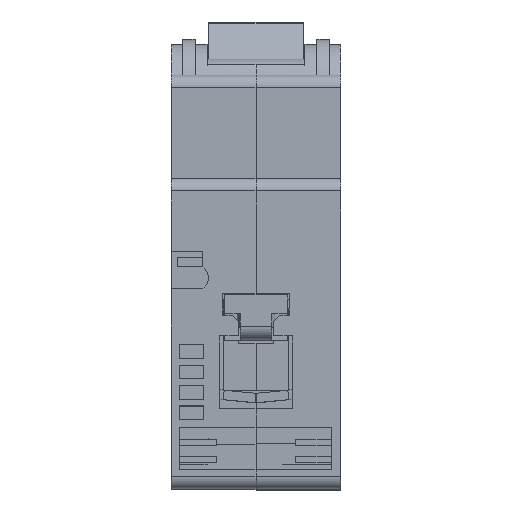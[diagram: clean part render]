
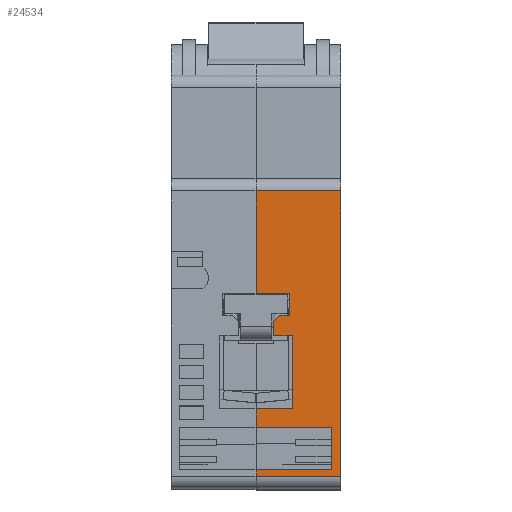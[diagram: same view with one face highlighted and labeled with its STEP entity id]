
A CAD part, top view. The second image highlights one B-rep face of the part: STEP entity #24534.
In plain terms, the highlighted planar face has unit normal (0, 0, 1).
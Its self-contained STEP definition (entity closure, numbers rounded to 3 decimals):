
#54 = FACE_OUTER_BOUND ( 'NONE', #24549, .T. ) ;
#77 = CARTESIAN_POINT ( 'NONE',  ( -10.7, -36.8, 41.2 ) ) ;
#110 = LINE ( 'NONE', #17643, #23780 ) ;
#350 = VECTOR ( 'NONE', #503, 1000. ) ;
#503 = DIRECTION ( 'NONE',  ( 0.707, 0.707, 0. ) ) ;
#535 = CARTESIAN_POINT ( 'NONE',  ( -1.5, -60.4, 41.2 ) ) ;
#616 = DIRECTION ( 'NONE',  ( -1., 0., 0. ) ) ;
#768 = VERTEX_POINT ( 'NONE', #8551 ) ;
#1143 = ORIENTED_EDGE ( 'NONE', *, *, #19884, .F. ) ;
#1582 = DIRECTION ( 'NONE',  ( 0., 1., 0. ) ) ;
#1878 = LINE ( 'NONE', #19238, #3663 ) ;
#1896 = EDGE_CURVE ( 'NONE', #16956, #9926, #29297, .T. ) ;
#1991 = VECTOR ( 'NONE', #29263, 1000. ) ;
#2109 = EDGE_CURVE ( 'NONE', #9926, #23685, #20394, .T. ) ;
#2506 = CARTESIAN_POINT ( 'NONE',  ( -10.7, -36.8, 41.2 ) ) ;
#3663 = VECTOR ( 'NONE', #19548, 1000. ) ;
#3841 = VERTEX_POINT ( 'NONE', #77 ) ;
#4203 = DIRECTION ( 'NONE',  ( -1., 0., 0. ) ) ;
#4446 = CARTESIAN_POINT ( 'NONE',  ( -7.7, -50.7, 41.2 ) ) ;
#4617 = DIRECTION ( 'NONE',  ( 0., 1., 0. ) ) ;
#4830 = VECTOR ( 'NONE', #14381, 1000. ) ;
#5055 = ORIENTED_EDGE ( 'NONE', *, *, #7445, .F. ) ;
#5196 = VECTOR ( 'NONE', #1582, 1000. ) ;
#5289 = VECTOR ( 'NONE', #24247, 1000. ) ;
#5343 = ORIENTED_EDGE ( 'NONE', *, *, #1896, .T. ) ;
#5382 = LINE ( 'NONE', #535, #11844 ) ;
#5641 = VERTEX_POINT ( 'NONE', #21983 ) ;
#5922 = DIRECTION ( 'NONE',  ( -1., 0., 0. ) ) ;
#5967 = EDGE_CURVE ( 'NONE', #18248, #10649, #19441, .T. ) ;
#6152 = CARTESIAN_POINT ( 'NONE',  ( 0., -61.5, 41.2 ) ) ;
#6590 = VECTOR ( 'NONE', #28179, 1000. ) ;
#6630 = EDGE_CURVE ( 'NONE', #16815, #20314, #24893, .T. ) ;
#6741 = CARTESIAN_POINT ( 'NONE',  ( 0., -63.5, 41.2 ) ) ;
#6852 = AXIS2_PLACEMENT_3D ( 'NONE', #16422, #10173, #15816 ) ;
#7194 = LINE ( 'NONE', #18812, #21901 ) ;
#7392 = PLANE ( 'NONE',  #6852 ) ;
#7445 = EDGE_CURVE ( 'NONE', #10649, #22647, #12620, .T. ) ;
#7463 = CARTESIAN_POINT ( 'NONE',  ( -13.5, -63.5, 41.2 ) ) ;
#7576 = EDGE_CURVE ( 'NONE', #11519, #5641, #1878, .T. ) ;
#7755 = ORIENTED_EDGE ( 'NONE', *, *, #26622, .F. ) ;
#7947 = VECTOR ( 'NONE', #4617, 1000. ) ;
#8116 = EDGE_CURVE ( 'NONE', #18248, #25598, #5382, .T. ) ;
#8175 = CARTESIAN_POINT ( 'NONE',  ( -13.5, -16., 41.2 ) ) ;
#8370 = CARTESIAN_POINT ( 'NONE',  ( -13.5, -61.5, 41.2 ) ) ;
#8551 = CARTESIAN_POINT ( 'NONE',  ( -10.7, -39.1, 41.2 ) ) ;
#9044 = DIRECTION ( 'NONE',  ( 1., 0., 0. ) ) ;
#9407 = ORIENTED_EDGE ( 'NONE', *, *, #26239, .T. ) ;
#9913 = EDGE_CURVE ( 'NONE', #25598, #16815, #21098, .T. ) ;
#9926 = VERTEX_POINT ( 'NONE', #12074 ) ;
#9981 = CARTESIAN_POINT ( 'NONE',  ( -13.5, -60.4, 41.2 ) ) ;
#10067 = CARTESIAN_POINT ( 'NONE',  ( -13.5, -61.5, 41.2 ) ) ;
#10173 = DIRECTION ( 'NONE',  ( 0., 0., 1. ) ) ;
#10480 = DIRECTION ( 'NONE',  ( -1., 0., 0. ) ) ;
#10649 = VERTEX_POINT ( 'NONE', #12249 ) ;
#10926 = CARTESIAN_POINT ( 'NONE',  ( -7.7, -39.1, 41.2 ) ) ;
#11519 = VERTEX_POINT ( 'NONE', #27900 ) ;
#11844 = VECTOR ( 'NONE', #5922, 1000. ) ;
#12074 = CARTESIAN_POINT ( 'NONE',  ( -13.5, -16., 41.2 ) ) ;
#12249 = CARTESIAN_POINT ( 'NONE',  ( -1.5, -53.7, 41.2 ) ) ;
#12270 = ORIENTED_EDGE ( 'NONE', *, *, #29686, .F. ) ;
#12620 = LINE ( 'NONE', #14151, #21206 ) ;
#12923 = CARTESIAN_POINT ( 'NONE',  ( -13.5, -32.3, 41.2 ) ) ;
#13306 = DIRECTION ( 'NONE',  ( 0., 1., 0. ) ) ;
#13333 = VERTEX_POINT ( 'NONE', #10926 ) ;
#13523 = CARTESIAN_POINT ( 'NONE',  ( -1.5, -60.4, 41.2 ) ) ;
#13553 = VERTEX_POINT ( 'NONE', #29637 ) ;
#13602 = LINE ( 'NONE', #13906, #16098 ) ;
#13700 = CARTESIAN_POINT ( 'NONE',  ( -13.5, -50.7, 41.2 ) ) ;
#13906 = CARTESIAN_POINT ( 'NONE',  ( -10.7, -39.1, 41.2 ) ) ;
#14142 = EDGE_CURVE ( 'NONE', #3841, #11519, #15014, .T. ) ;
#14151 = CARTESIAN_POINT ( 'NONE',  ( -1.5, -53.7, 41.2 ) ) ;
#14304 = VECTOR ( 'NONE', #27097, 1000. ) ;
#14381 = DIRECTION ( 'NONE',  ( 0., -1., 0. ) ) ;
#14867 = LINE ( 'NONE', #27991, #4830 ) ;
#14875 = ORIENTED_EDGE ( 'NONE', *, *, #8116, .T. ) ;
#15014 = LINE ( 'NONE', #2506, #350 ) ;
#15673 = ORIENTED_EDGE ( 'NONE', *, *, #28279, .F. ) ;
#15816 = DIRECTION ( 'NONE',  ( 1., 0., 0. ) ) ;
#16042 = CARTESIAN_POINT ( 'NONE',  ( -1.5, -60.4, 41.2 ) ) ;
#16062 = CARTESIAN_POINT ( 'NONE',  ( -7.7, -50.7, 41.2 ) ) ;
#16082 = VECTOR ( 'NONE', #10480, 1000. ) ;
#16096 = CARTESIAN_POINT ( 'NONE',  ( -13.5, -63.5, 41.2 ) ) ;
#16098 = VECTOR ( 'NONE', #13306, 1000. ) ;
#16422 = CARTESIAN_POINT ( 'NONE',  ( -13.5, -63.5, 41.2 ) ) ;
#16815 = VERTEX_POINT ( 'NONE', #8370 ) ;
#16956 = VERTEX_POINT ( 'NONE', #25009 ) ;
#17643 = CARTESIAN_POINT ( 'NONE',  ( -10.7, -39.1, 41.2 ) ) ;
#18248 = VERTEX_POINT ( 'NONE', #13523 ) ;
#18509 = ORIENTED_EDGE ( 'NONE', *, *, #27116, .F. ) ;
#18812 = CARTESIAN_POINT ( 'NONE',  ( -7.7, -50.7, 41.2 ) ) ;
#18943 = ORIENTED_EDGE ( 'NONE', *, *, #22517, .F. ) ;
#19238 = CARTESIAN_POINT ( 'NONE',  ( -9.7, -35.8, 41.2 ) ) ;
#19441 = LINE ( 'NONE', #16042, #7947 ) ;
#19548 = DIRECTION ( 'NONE',  ( 1., 0., 0. ) ) ;
#19883 = LINE ( 'NONE', #4446, #25238 ) ;
#19884 = EDGE_CURVE ( 'NONE', #768, #3841, #13602, .T. ) ;
#20005 = CARTESIAN_POINT ( 'NONE',  ( -8.2, -32.3, 41.2 ) ) ;
#20314 = VERTEX_POINT ( 'NONE', #6152 ) ;
#20394 = LINE ( 'NONE', #16096, #14304 ) ;
#20987 = LINE ( 'NONE', #6741, #1991 ) ;
#21098 = LINE ( 'NONE', #7463, #29282 ) ;
#21206 = VECTOR ( 'NONE', #616, 1000. ) ;
#21541 = ORIENTED_EDGE ( 'NONE', *, *, #9913, .T. ) ;
#21901 = VECTOR ( 'NONE', #23039, 1000. ) ;
#21983 = CARTESIAN_POINT ( 'NONE',  ( -8.2, -35.8, 41.2 ) ) ;
#22517 = EDGE_CURVE ( 'NONE', #16956, #20314, #20987, .T. ) ;
#22647 = VERTEX_POINT ( 'NONE', #25182 ) ;
#23039 = DIRECTION ( 'NONE',  ( 0., 1., 0. ) ) ;
#23525 = DIRECTION ( 'NONE',  ( 0., -1., 0. ) ) ;
#23685 = VERTEX_POINT ( 'NONE', #29404 ) ;
#23780 = VECTOR ( 'NONE', #4203, 1000. ) ;
#23820 = VERTEX_POINT ( 'NONE', #13700 ) ;
#23907 = ORIENTED_EDGE ( 'NONE', *, *, #5967, .F. ) ;
#24247 = DIRECTION ( 'NONE',  ( -1., 0., 0. ) ) ;
#24534 = ADVANCED_FACE ( 'NONE', ( #54 ), #7392, .T. ) ;
#24549 = EDGE_LOOP ( 'NONE', ( #12270, #27262, #26190, #25139, #1143, #18509, #15673, #7755, #9407, #5055, #23907, #14875, #21541, #28989, #18943, #5343, #25191 ) ) ;
#24734 = VERTEX_POINT ( 'NONE', #16062 ) ;
#24893 = LINE ( 'NONE', #10067, #6590 ) ;
#25009 = CARTESIAN_POINT ( 'NONE',  ( 0., -16., 41.2 ) ) ;
#25139 = ORIENTED_EDGE ( 'NONE', *, *, #14142, .F. ) ;
#25182 = CARTESIAN_POINT ( 'NONE',  ( -13.5, -53.7, 41.2 ) ) ;
#25191 = ORIENTED_EDGE ( 'NONE', *, *, #2109, .T. ) ;
#25238 = VECTOR ( 'NONE', #9044, 1000. ) ;
#25598 = VERTEX_POINT ( 'NONE', #9981 ) ;
#25790 = EDGE_CURVE ( 'NONE', #5641, #13553, #29559, .T. ) ;
#26190 = ORIENTED_EDGE ( 'NONE', *, *, #7576, .F. ) ;
#26239 = EDGE_CURVE ( 'NONE', #23820, #22647, #14867, .T. ) ;
#26622 = EDGE_CURVE ( 'NONE', #23820, #24734, #19883, .T. ) ;
#27097 = DIRECTION ( 'NONE',  ( 0., -1., 0. ) ) ;
#27116 = EDGE_CURVE ( 'NONE', #13333, #768, #110, .T. ) ;
#27262 = ORIENTED_EDGE ( 'NONE', *, *, #25790, .F. ) ;
#27900 = CARTESIAN_POINT ( 'NONE',  ( -9.7, -35.8, 41.2 ) ) ;
#27991 = CARTESIAN_POINT ( 'NONE',  ( -13.5, -63.5, 41.2 ) ) ;
#28179 = DIRECTION ( 'NONE',  ( 1., 0., 0. ) ) ;
#28208 = LINE ( 'NONE', #12923, #5289 ) ;
#28279 = EDGE_CURVE ( 'NONE', #24734, #13333, #7194, .T. ) ;
#28989 = ORIENTED_EDGE ( 'NONE', *, *, #6630, .T. ) ;
#29263 = DIRECTION ( 'NONE',  ( 0., -1., 0. ) ) ;
#29282 = VECTOR ( 'NONE', #23525, 1000. ) ;
#29297 = LINE ( 'NONE', #8175, #16082 ) ;
#29404 = CARTESIAN_POINT ( 'NONE',  ( -13.5, -32.3, 41.2 ) ) ;
#29559 = LINE ( 'NONE', #20005, #5196 ) ;
#29637 = CARTESIAN_POINT ( 'NONE',  ( -8.2, -32.3, 41.2 ) ) ;
#29686 = EDGE_CURVE ( 'NONE', #13553, #23685, #28208, .T. ) ;
